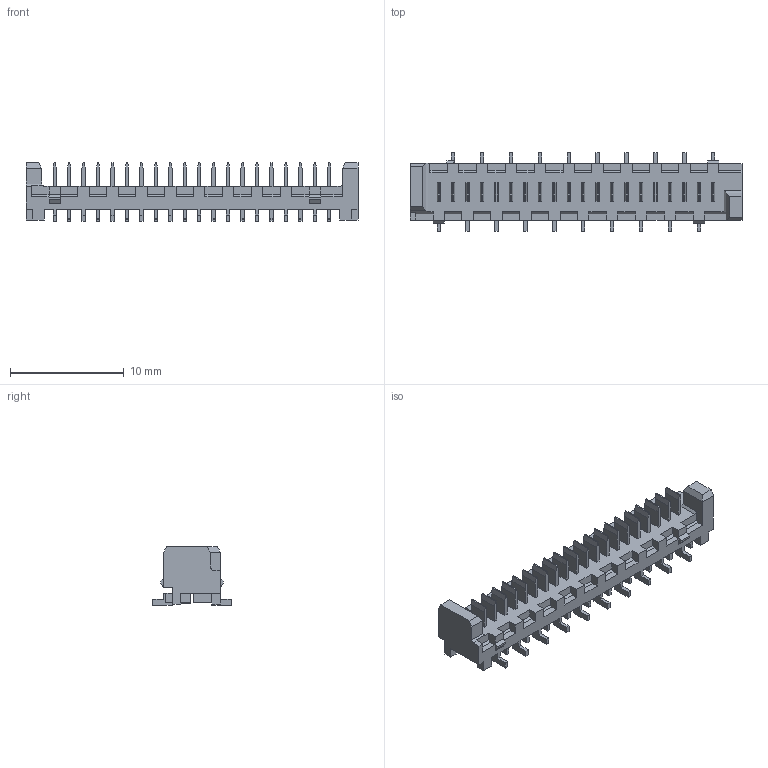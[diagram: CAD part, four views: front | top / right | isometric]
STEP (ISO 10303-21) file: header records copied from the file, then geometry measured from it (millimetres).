
FILE_DESCRIPTION((''),'2;1');
FILE_NAME('908140720','2021-05-27T',('gga'),(''),'PRO/ENGINEER BY PARAMETRIC TECHNOLOGY CORPORATION, 2016010','PRO/ENGINEER BY PARAMETRIC TECHNOLOGY CORPORATION, 2016010','');
FILE_SCHEMA(('CONFIG_CONTROL_DESIGN'));
Length unit declared in the file: millimetre
Products named in the file (1): 908140720
Bounding box: 29.18 x 6.9 x 5.17 mm (x, y, z)
Volume: 323.7 mm3; surface area: 880.6 mm2
Topology: 1 solids, 1 shells, 597 faces, 1723 edges, 1158 vertices
Faces by surface type: plane 597
Entity records: 19052 total; most frequent: CARTESIAN_POINT 3400, ORIENTED_EDGE 3286, DIRECTION 2921, VECTOR 1723, LINE 1723, EDGE_CURVE 1643, VERTEX_POINT 1078, EDGE_LOOP 627
